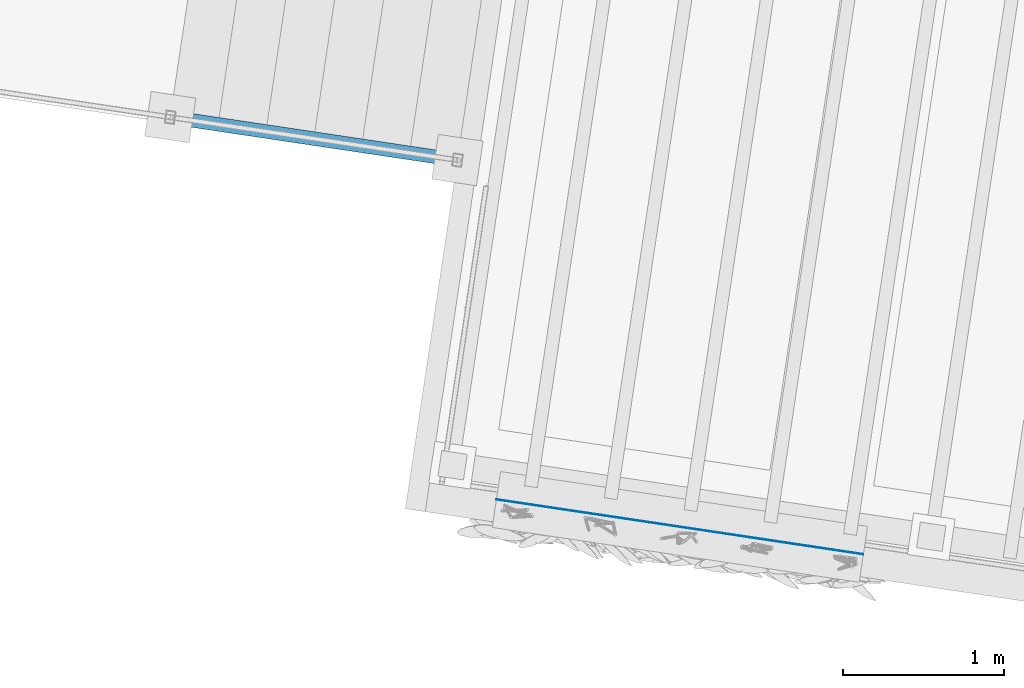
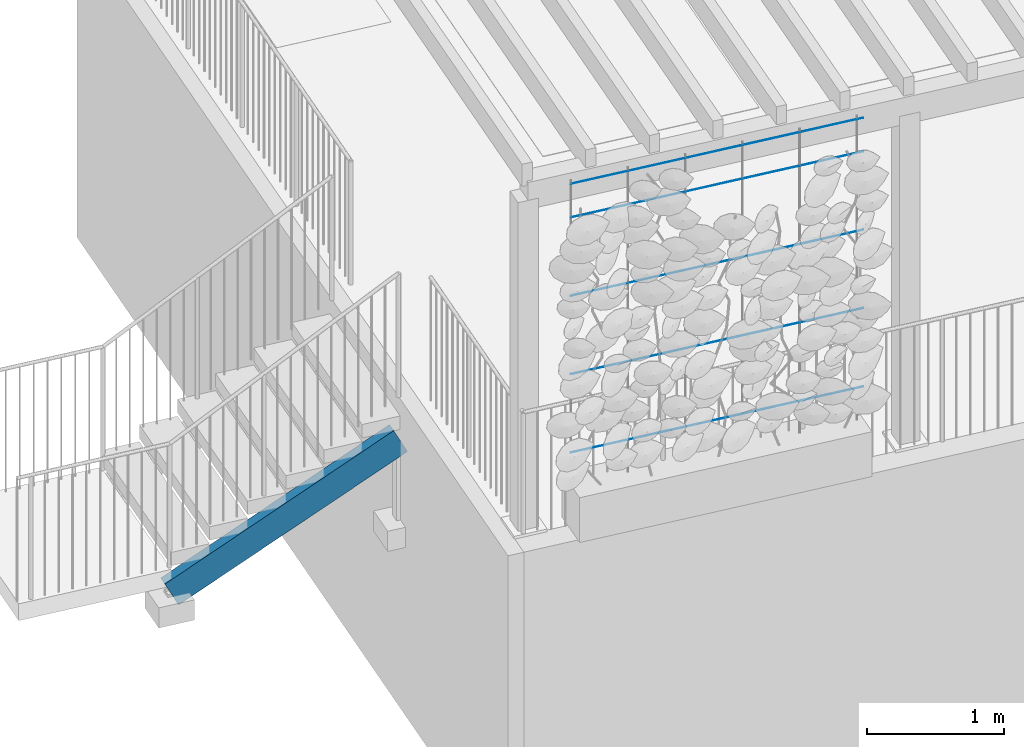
# One storey, part 9 of 128: 6 members, 2 elements without a shape of their own.
"""IFC4 building model written with IfcOpenShell, lengths in metres."""

from ifc_helpers import new_model, si_unit, direction, frame, origin_with_axes, place, context, subcontext, project, spatial, polyline, circle, outline, extrude, material, material_profile, profile_set, profile_usage, type_object, element, aggregate, save


model = new_model("IFC4")

# Units and contexts
model_context = context("Model", 3, precision=1e-05, world=origin_with_axes(), true_north=direction((0.0, 1.0)))
body_context = subcontext(model_context, "Body", "Model", "MODEL_VIEW")
ifc_project = project(units=[si_unit("VOLUMEUNIT", "CUBIC_METRE"), si_unit("LENGTHUNIT", "METRE"), si_unit("AREAUNIT", "SQUARE_METRE")], contexts=[model_context])

# Site, building, storey
site_placement = place(None, origin_with_axes())
site = spatial("IfcSite", under=ifc_project, at=site_placement, Name="Lares · Rua das Mercês · artigo 4771")
building_placement = place(site_placement, frame((15.0, 9.7, 13.9), z_axis=(0.0, 0.0, 1.0), x_axis=(0.989015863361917, -0.147809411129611, 0.0)))
building = spatial("IfcBuilding", under=site, at=building_placement, Name="Casa Sobreposta")
storey_placement = place(building_placement, origin_with_axes())
storey = spatial("IfcBuildingStorey", under=building, at=storey_placement, Name="00 · Habitação e estacionamento", Elevation=13.9)

# Stair, member
stair_placement = place(storey_placement, origin_with_axes())
stair = element("IfcStair", 1, at=stair_placement, inside=storey, Name="Jardim · escada pela fachada poente", PredefinedType="STRAIGHT_RUN_STAIR")
ifc_material_1 = material(Name="Aço pintado / Stahl lackiert", Category="steel")
ifc_material_profile_1 = material_profile(ifc_material_1, outline(polyline([(-0.0425, -0.12), (0.0425, -0.12), (0.0425, -0.1102), (-0.0325, -0.1102), (-0.0325, 0.1102), (0.0425, 0.1102), (0.0425, 0.12), (-0.0425, 0.12), (-0.0425, -0.12)])))
ifc_profile_set_1 = profile_set([ifc_material_profile_1], Name="C240")
ifc_profile_usage_1 = profile_usage(ifc_profile_set_1)
member_type_1 = type_object("IfcMemberType", Name="C240 / steel", PredefinedType="NOTDEFINED", material=ifc_profile_set_1)
member_1_placement = place(stair_placement, frame((-6.25, 0.435, -0.411428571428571), z_axis=(-0.892720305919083, 0.0, -0.450611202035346), x_axis=(0.0, 1.0, 0.0)))
member_1 = element("IfcMember", 2, at=member_1_placement, type_object=member_type_1, material=ifc_profile_usage_1, Name="Jardim · longarina poente", context=body_context, shape_type="SweptSolid", body=[
    extrude(outline(polyline([(-0.0425, -0.12), (0.0425, -0.12), (0.0425, -0.1102), (-0.0325, -0.1102), (-0.0325, 0.1102), (0.0425, 0.1102), (0.0425, 0.12), (-0.0425, 0.12), (-0.0425, -0.12)])), origin_with_axes(), (0.0, 0.0, 1.0), 2.01630901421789),
])
aggregate(stair, [member_1])

# Assembly, members
assembly_placement = place(storey_placement, origin_with_axes())
assembly = element("IfcElementAssembly", 3, at=assembly_placement, inside=storey, Name="Fachada sul e pátio · estrutura e trepadeiras", ObjectType="LIVING_SHADE_TRELLIS", PredefinedType="USERDEFINED")
ifc_material_2 = material(Name="Aço galvanizado / Stahl verzinkt", Category="steel")
ifc_material_profile_2 = material_profile(ifc_material_2, circle(Radius=0.002))
ifc_profile_set_2 = profile_set([ifc_material_profile_2], Name="D0.004")
ifc_profile_usage_2 = profile_usage(ifc_profile_set_2)
member_type_2 = type_object("IfcMemberType", Name="D0.004 / galvanized", PredefinedType="NOTDEFINED", material=ifc_profile_set_2)
member_2_placement = place(assembly_placement, frame((-5.7, -1.61, 0.65), z_axis=(1.0, 0.0, 0.0), x_axis=(0.0, -1.0, 0.0)))
member_2 = element("IfcMember", 4, at=member_2_placement, type_object=member_type_2, material=ifc_profile_usage_2, Name="Trepadeiras · fio horizontal", context=body_context, shape_type="SweptSolid", body=[
    extrude(circle(Radius=0.002), origin_with_axes(), (0.0, 0.0, 1.0), 2.3),
])
ifc_profile_usage_3 = profile_usage(ifc_profile_set_2)
member_3_placement = place(assembly_placement, frame((-5.7, -1.61, 1.35), z_axis=(1.0, 0.0, 0.0), x_axis=(0.0, -1.0, 0.0)))
member_3 = element("IfcMember", 5, at=member_3_placement, type_object=member_type_2, material=ifc_profile_usage_3, Name="Trepadeiras · fio horizontal", context=body_context, shape_type="SweptSolid", body=[
    extrude(circle(Radius=0.002), origin_with_axes(), (0.0, 0.0, 1.0), 2.3),
])
ifc_profile_usage_4 = profile_usage(ifc_profile_set_2)
member_4_placement = place(assembly_placement, frame((-5.7, -1.61, 2.05), z_axis=(1.0, 0.0, 0.0), x_axis=(0.0, -1.0, 0.0)))
member_4 = element("IfcMember", 6, at=member_4_placement, type_object=member_type_2, material=ifc_profile_usage_4, Name="Trepadeiras · fio horizontal", context=body_context, shape_type="SweptSolid", body=[
    extrude(circle(Radius=0.002), origin_with_axes(), (0.0, 0.0, 1.0), 2.3),
])
ifc_profile_usage_5 = profile_usage(ifc_profile_set_2)
member_5_placement = place(assembly_placement, frame((-5.7, -1.61, 2.75), z_axis=(1.0, 0.0, 0.0), x_axis=(0.0, -1.0, 0.0)))
member_5 = element("IfcMember", 7, at=member_5_placement, type_object=member_type_2, material=ifc_profile_usage_5, Name="Trepadeiras · fio horizontal", context=body_context, shape_type="SweptSolid", body=[
    extrude(circle(Radius=0.002), origin_with_axes(), (0.0, 0.0, 1.0), 2.3),
])
ifc_profile_usage_6 = profile_usage(ifc_profile_set_2)
member_6_placement = place(assembly_placement, frame((-5.7, -1.61, 3.05), z_axis=(1.0, 0.0, 0.0), x_axis=(0.0, -1.0, 0.0)))
member_6 = element("IfcMember", 8, at=member_6_placement, type_object=member_type_2, material=ifc_profile_usage_6, Name="Trepadeiras · fio horizontal", context=body_context, shape_type="SweptSolid", body=[
    extrude(circle(Radius=0.002), origin_with_axes(), (0.0, 0.0, 1.0), 2.3),
])
aggregate(assembly, [member_2, member_3, member_4, member_5, member_6])

save(model, "model.ifc")
